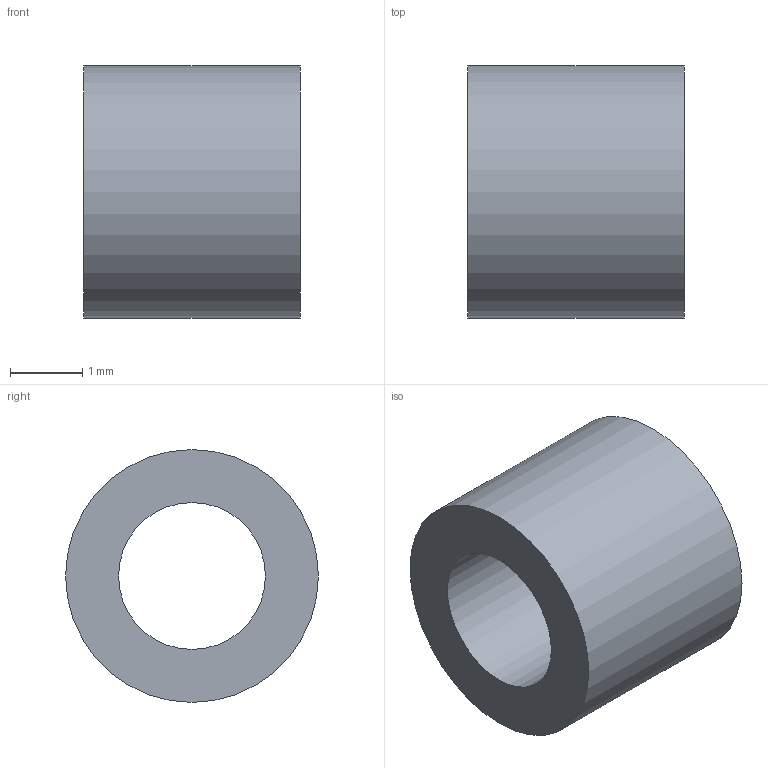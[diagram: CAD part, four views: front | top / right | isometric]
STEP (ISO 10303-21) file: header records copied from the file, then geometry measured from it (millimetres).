
FILE_DESCRIPTION(('Open CASCADE Model'),'2;1');
FILE_NAME('Open CASCADE Shape Model','2026-09-09T10:24:07',('Author'),( 'Open CASCADE'),'Open CASCADE STEP processor 7.8','Open CASCADE 7.8' ,'Unknown');
FILE_SCHEMA(('AUTOMOTIVE_DESIGN { 1 0 10303 214 1 1 1 1 }'));
Length unit declared in the file: millimetre
Products named in the file (1): Open CASCADE STEP translator 7.8 6
Bounding box: 3 x 3.5 x 3.5 mm (x, y, z)
Volume: 19.1 mm3; surface area: 64.9 mm2
Topology: 1 solids, 1 shells, 4 faces, 6 edges, 4 vertices
Faces by surface type: cylinder 2, plane 2
Full cylindrical faces by diameter (mm): 2.034 x1, 3.5 x1
Entity records: 186 total; most frequent: DIRECTION 32, CARTESIAN_POINT 27, ORIENTED_EDGE 12, PCURVE 12, DEFINITIONAL_REPRESENTATION 12, LINE 10, VECTOR 10, AXIS2_PLACEMENT_3D 9
